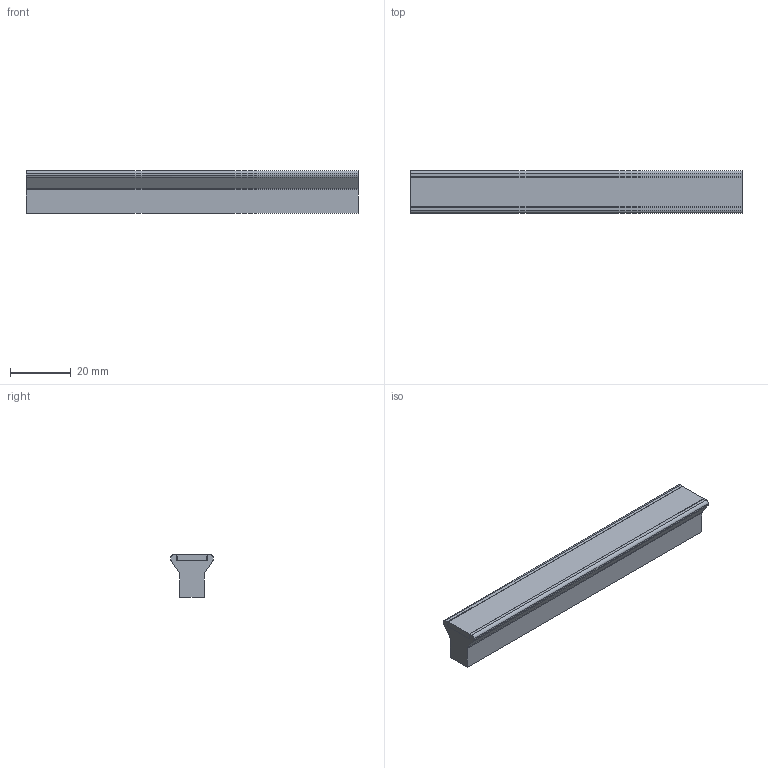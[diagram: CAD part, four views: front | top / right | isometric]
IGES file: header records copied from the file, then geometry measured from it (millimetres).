
Start section: C
Global section: file name: 8232 .igs; native system: By Siemens PLM Incorporated; preprocessor: XPlus GENERIC/IGES 16.0.42; author: Author; organization: Title; date: 20231114.115936; units: millimetre
Bounding box: 109.7 x 14 x 14 mm (x, y, z)
Surface area: 8888.9 mm2 (no closed solid volume)
Topology: 0 solids, 0 shells, 26 faces, 132 edges, 132 vertices
Faces by surface type: bspline 26
